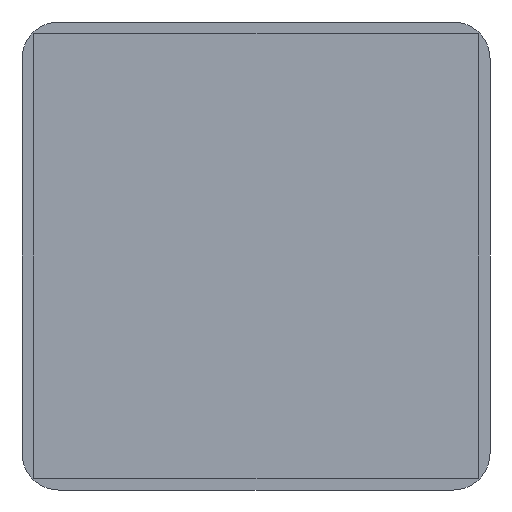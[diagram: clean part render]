
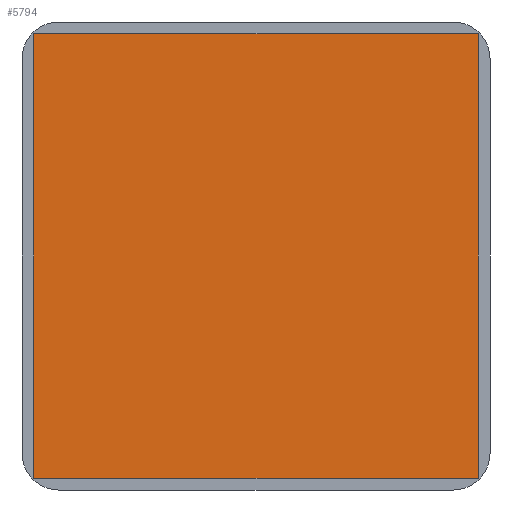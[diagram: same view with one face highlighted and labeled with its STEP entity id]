
A CAD part, front view. The second image highlights one B-rep face of the part: STEP entity #5794.
In plain terms, the highlighted planar face has unit normal (0, -1, 0).
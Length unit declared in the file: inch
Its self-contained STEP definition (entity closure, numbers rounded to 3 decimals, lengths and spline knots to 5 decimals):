
#127 = DIRECTION ( 'NONE',  ( 0., 0., 1. ) ) ;
#192 = ORIENTED_EDGE ( 'NONE', *, *, #419, .T. ) ;
#419 = EDGE_CURVE ( 'NONE', #3065, #4384, #9575, .T. ) ;
#548 = CARTESIAN_POINT ( 'NONE',  ( -0.7874, -0.005, -0.7874 ) ) ;
#661 = EDGE_CURVE ( 'NONE', #4547, #3383, #7763, .T. ) ;
#808 = CARTESIAN_POINT ( 'NONE',  ( 0.7874, -0.005, 0.7874 ) ) ;
#956 = LINE ( 'NONE', #4017, #9078 ) ;
#1051 = CARTESIAN_POINT ( 'NONE',  ( 0.7874, -0.005, -0.7874 ) ) ;
#1323 = AXIS2_PLACEMENT_3D ( 'NONE', #808, #7458, #127 ) ;
#1622 = DIRECTION ( 'NONE',  ( 0., 0., -1. ) ) ;
#1703 = VECTOR ( 'NONE', #4992, 39.37008 ) ;
#1868 = LINE ( 'NONE', #5515, #4039 ) ;
#2191 = CARTESIAN_POINT ( 'NONE',  ( 0.7874, -0.005, -0.7874 ) ) ;
#2266 = CARTESIAN_POINT ( 'NONE',  ( -0.7874, -0.005, 0.7874 ) ) ;
#3065 = VERTEX_POINT ( 'NONE', #4554 ) ;
#3168 = ORIENTED_EDGE ( 'NONE', *, *, #661, .T. ) ;
#3362 = ORIENTED_EDGE ( 'NONE', *, *, #5180, .T. ) ;
#3383 = VERTEX_POINT ( 'NONE', #2191 ) ;
#3659 = EDGE_CURVE ( 'NONE', #4384, #4547, #956, .T. ) ;
#4017 = CARTESIAN_POINT ( 'NONE',  ( -0.7874, -0.005, -0.7874 ) ) ;
#4039 = VECTOR ( 'NONE', #8510, 39.37008 ) ;
#4384 = VERTEX_POINT ( 'NONE', #2266 ) ;
#4547 = VERTEX_POINT ( 'NONE', #548 ) ;
#4554 = CARTESIAN_POINT ( 'NONE',  ( 0.7874, -0.005, 0.7874 ) ) ;
#4992 = DIRECTION ( 'NONE',  ( 1., 0., 0. ) ) ;
#5180 = EDGE_CURVE ( 'NONE', #3383, #3065, #1868, .T. ) ;
#5515 = CARTESIAN_POINT ( 'NONE',  ( 0.7874, -0.005, -0.7874 ) ) ;
#5612 = ORIENTED_EDGE ( 'NONE', *, *, #3659, .T. ) ;
#5794 = ADVANCED_FACE ( 'NONE', ( #9037 ), #5891, .T. ) ;
#5845 = CARTESIAN_POINT ( 'NONE',  ( 0.7874, -0.005, 0.7874 ) ) ;
#5891 = PLANE ( 'NONE',  #1323 ) ;
#6715 = VECTOR ( 'NONE', #7960, 39.37008 ) ;
#7458 = DIRECTION ( 'NONE',  ( 0., -1., 0. ) ) ;
#7763 = LINE ( 'NONE', #1051, #1703 ) ;
#7960 = DIRECTION ( 'NONE',  ( -1., 0., 0. ) ) ;
#8510 = DIRECTION ( 'NONE',  ( 0., 0., 1. ) ) ;
#8668 = EDGE_LOOP ( 'NONE', ( #3362, #192, #5612, #3168 ) ) ;
#9037 = FACE_OUTER_BOUND ( 'NONE', #8668, .T. ) ;
#9078 = VECTOR ( 'NONE', #1622, 39.37008 ) ;
#9575 = LINE ( 'NONE', #5845, #6715 ) ;
